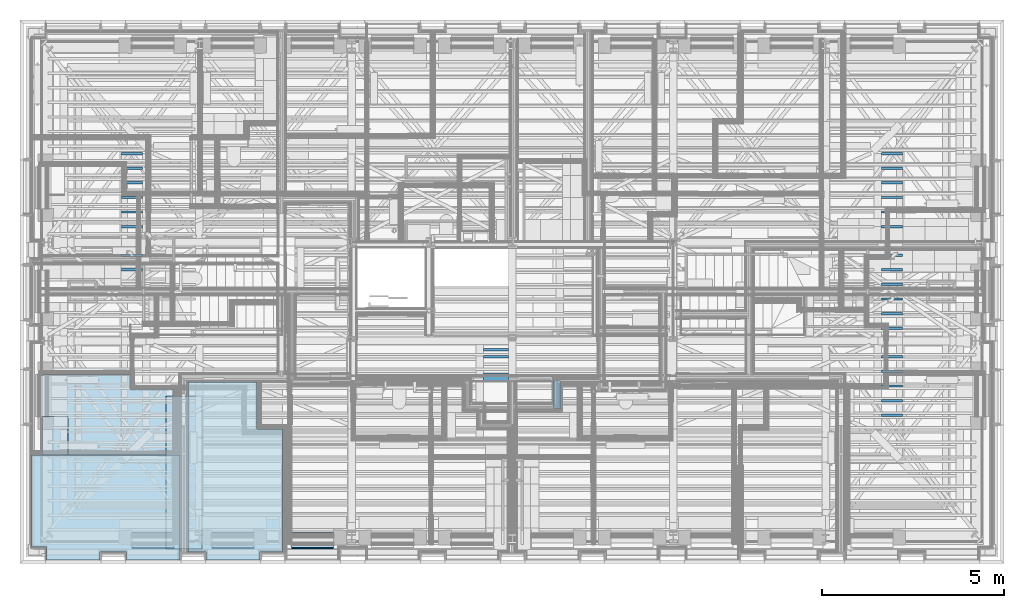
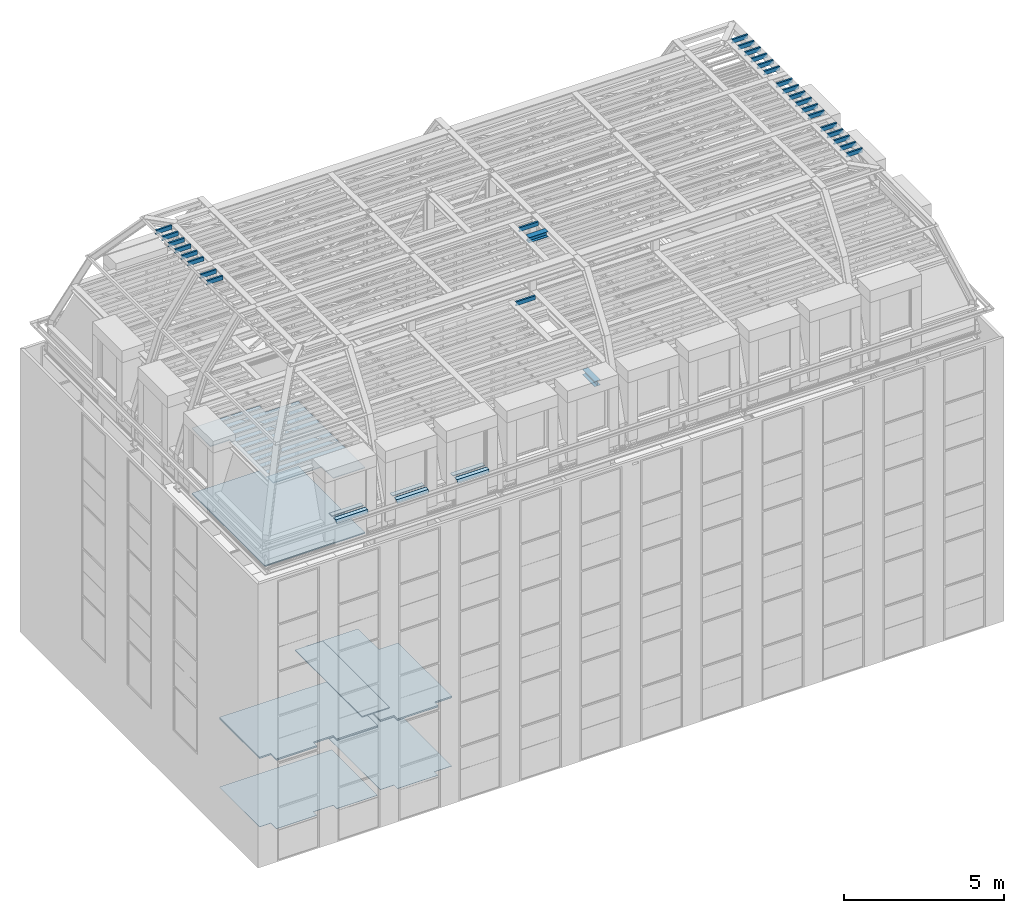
# One storey, part 12 of 183: 29 beams, 21 slabs.
"""IFC2X3 building model written with IfcOpenShell, lengths in metres."""

from ifc_helpers import new_model, entity, si_unit, converted_unit, derived_unit, money_unit, direction, frame, origin_with_axes, place, context, subcontext, project, spatial, polyline, outline, extrude, faceted_brep, material, type_object, element, save


model = new_model("IFC2X3")

# Units and contexts
model_context = context("Model", 3, precision=1e-05, world=origin_with_axes(), true_north=direction((0.0, 1.0)))
body_context = subcontext(model_context, "Body", "Model", "MODEL_VIEW", scale=1.0)
ifc_project = project(units=[si_unit("LENGTHUNIT", "METRE"), si_unit("AREAUNIT", "SQUARE_METRE"), si_unit("VOLUMEUNIT", "CUBIC_METRE"), si_unit("ABSORBEDDOSEUNIT", "GRAY"), si_unit("AMOUNTOFSUBSTANCEUNIT", "MOLE"), si_unit("DOSEEQUIVALENTUNIT", "SIEVERT"), si_unit("ELECTRICCAPACITANCEUNIT", "FARAD"), si_unit("ELECTRICCHARGEUNIT", "COULOMB"), si_unit("ELECTRICCONDUCTANCEUNIT", "SIEMENS"), si_unit("ELECTRICCURRENTUNIT", "AMPERE"), si_unit("ELECTRICRESISTANCEUNIT", "OHM"), si_unit("ELECTRICVOLTAGEUNIT", "VOLT"), si_unit("ENERGYUNIT", "JOULE"), si_unit("FORCEUNIT", "NEWTON"), si_unit("FREQUENCYUNIT", "HERTZ"), si_unit("ILLUMINANCEUNIT", "LUX"), si_unit("INDUCTANCEUNIT", "HENRY"), si_unit("LUMINOUSFLUXUNIT", "LUMEN"), si_unit("LUMINOUSINTENSITYUNIT", "CANDELA"), si_unit("MAGNETICFLUXDENSITYUNIT", "TESLA"), si_unit("MAGNETICFLUXUNIT", "WEBER"), si_unit("MASSUNIT", "GRAM"), converted_unit("PLANEANGLEUNIT", "degree", entity("IfcReal", 0.0174532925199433), si_unit("PLANEANGLEUNIT", "RADIAN"), dimensions=[0, 0, 0, 0, 0, 0, 0]), si_unit("POWERUNIT", "WATT"), si_unit("PRESSUREUNIT", "PASCAL"), si_unit("RADIOACTIVITYUNIT", "BECQUEREL"), si_unit("SOLIDANGLEUNIT", "STERADIAN"), si_unit("THERMODYNAMICTEMPERATUREUNIT", "KELVIN"), si_unit("TIMEUNIT", "SECOND"), derived_unit("ACCELERATIONUNIT", [(si_unit("LENGTHUNIT", "METRE"), 1), (si_unit("TIMEUNIT", "SECOND"), -2)]), derived_unit("ANGULARVELOCITYUNIT", [(converted_unit("PLANEANGLEUNIT", "degree", entity("IfcReal", 0.0174532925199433), si_unit("PLANEANGLEUNIT", "RADIAN"), dimensions=[0, 0, 0, 0, 0, 0, 0]), 1), (si_unit("TIMEUNIT", "SECOND"), -1)]), derived_unit("CURVATUREUNIT", [(converted_unit("PLANEANGLEUNIT", "degree", entity("IfcReal", 0.0174532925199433), si_unit("PLANEANGLEUNIT", "RADIAN"), dimensions=[0, 0, 0, 0, 0, 0, 0]), 1), (si_unit("LENGTHUNIT", "METRE"), -1)]), derived_unit("DYNAMICVISCOSITYUNIT", [(si_unit("PRESSUREUNIT", "PASCAL"), 1), (si_unit("TIMEUNIT", "SECOND"), 1)]), derived_unit("HEATFLUXDENSITYUNIT", [(si_unit("POWERUNIT", "WATT"), 1), (si_unit("LENGTHUNIT", "METRE"), -2)]), derived_unit("HEATINGVALUEUNIT", [(si_unit("ENERGYUNIT", "JOULE"), 1), (si_unit("MASSUNIT", "GRAM"), -1)]), derived_unit("INTEGERCOUNTRATEUNIT", [(si_unit("TIMEUNIT", "SECOND"), -1)]), derived_unit("IONCONCENTRATIONUNIT", [(si_unit("MASSUNIT", "GRAM"), 1), (si_unit("VOLUMEUNIT", "CUBIC_METRE"), -1)]), derived_unit("ISOTHERMALMOISTURECAPACITYUNIT", [(si_unit("VOLUMEUNIT", "CUBIC_METRE"), 1), (si_unit("MASSUNIT", "GRAM"), -1)]), derived_unit("KINEMATICVISCOSITYUNIT", [(si_unit("AREAUNIT", "SQUARE_METRE"), 1), (si_unit("TIMEUNIT", "SECOND"), -1)]), derived_unit("LINEARFORCEUNIT", [(si_unit("FORCEUNIT", "NEWTON"), 1), (si_unit("LENGTHUNIT", "METRE"), -1)]), derived_unit("LINEARMOMENTUNIT", [(si_unit("FORCEUNIT", "NEWTON"), 1), (si_unit("LENGTHUNIT", "METRE"), -1)]), derived_unit("LINEARSTIFFNESSUNIT", [(si_unit("FORCEUNIT", "NEWTON"), 1), (si_unit("LENGTHUNIT", "METRE"), -1)]), derived_unit("LINEARVELOCITYUNIT", [(si_unit("LENGTHUNIT", "METRE"), 1), (si_unit("TIMEUNIT", "SECOND"), -1)]), derived_unit("LUMINOUSINTENSITYDISTRIBUTIONUNIT", [(si_unit("LUMINOUSINTENSITYUNIT", "CANDELA"), 1), (si_unit("LUMINOUSFLUXUNIT", "LUMEN"), -1)]), derived_unit("MASSDENSITYUNIT", [(si_unit("MASSUNIT", "GRAM"), 1), (si_unit("VOLUMEUNIT", "CUBIC_METRE"), -1)]), derived_unit("MASSFLOWRATEUNIT", [(si_unit("MASSUNIT", "GRAM"), 1), (si_unit("TIMEUNIT", "SECOND"), -1)]), derived_unit("MASSPERLENGTHUNIT", [(si_unit("MASSUNIT", "GRAM"), 1), (si_unit("LENGTHUNIT", "METRE"), -1)]), derived_unit("MODULUSOFELASTICITYUNIT", [(si_unit("FORCEUNIT", "NEWTON"), 1), (si_unit("AREAUNIT", "SQUARE_METRE"), -1)]), derived_unit("MODULUSOFLINEARSUBGRADEREACTIONUNIT", [(si_unit("FORCEUNIT", "NEWTON"), 1), (si_unit("LENGTHUNIT", "METRE"), -2)]), derived_unit("MODULUSOFROTATIONALSUBGRADEREACTIONUNIT", [(si_unit("FORCEUNIT", "NEWTON"), 1), (si_unit("LENGTHUNIT", "METRE"), 1)]), derived_unit("MODULUSOFSUBGRADEREACTIONUNIT", [(si_unit("FORCEUNIT", "NEWTON"), 1), (si_unit("VOLUMEUNIT", "CUBIC_METRE"), -1)]), derived_unit("MOISTUREDIFFUSIVITYUNIT", [(si_unit("VOLUMEUNIT", "CUBIC_METRE"), 1), (si_unit("TIMEUNIT", "SECOND"), -1)]), derived_unit("MOLECULARWEIGHTUNIT", [(si_unit("MASSUNIT", "GRAM"), 1), (si_unit("AMOUNTOFSUBSTANCEUNIT", "MOLE"), -1)]), derived_unit("PLANARFORCEUNIT", [(si_unit("FORCEUNIT", "NEWTON"), 1), (si_unit("LENGTHUNIT", "METRE"), -2)]), derived_unit("ROTATIONALFREQUENCYUNIT", [(si_unit("TIMEUNIT", "SECOND"), -1)]), derived_unit("ROTATIONALMASSUNIT", [(si_unit("MASSUNIT", "GRAM"), 1), (si_unit("LENGTHUNIT", "METRE"), 2)]), derived_unit("ROTATIONALSTIFFNESSUNIT", [(si_unit("FORCEUNIT", "NEWTON"), 1), (si_unit("LENGTHUNIT", "METRE"), 1), (converted_unit("PLANEANGLEUNIT", "degree", entity("IfcReal", 0.0174532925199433), si_unit("PLANEANGLEUNIT", "RADIAN"), dimensions=[0, 0, 0, 0, 0, 0, 0]), -1)]), derived_unit("SECTIONAREAINTEGRALUNIT", [(si_unit("LENGTHUNIT", "METRE"), 5)]), derived_unit("SECTIONMODULUSUNIT", [(si_unit("LENGTHUNIT", "METRE"), 3)]), derived_unit("SHEARMODULUSUNIT", [(si_unit("FORCEUNIT", "NEWTON"), 1), (si_unit("AREAUNIT", "SQUARE_METRE"), -1)]), derived_unit("SOUNDPOWERUNIT", [(si_unit("ENERGYUNIT", "JOULE"), 1), (si_unit("TIMEUNIT", "SECOND"), -1)]), derived_unit("SPECIFICHEATCAPACITYUNIT", [(si_unit("FORCEUNIT", "NEWTON"), 1), (si_unit("MASSUNIT", "GRAM"), -1), (si_unit("THERMODYNAMICTEMPERATUREUNIT", "KELVIN"), -1)]), derived_unit("TEMPERATUREGRADIENTUNIT", [(si_unit("THERMODYNAMICTEMPERATUREUNIT", "KELVIN"), 1), (si_unit("LENGTHUNIT", "METRE"), -1)]), derived_unit("THERMALADMITTANCEUNIT", [(si_unit("POWERUNIT", "WATT"), 1), (si_unit("AREAUNIT", "SQUARE_METRE"), -1), (si_unit("THERMODYNAMICTEMPERATUREUNIT", "KELVIN"), -1)]), derived_unit("THERMALCONDUCTANCEUNIT", [(si_unit("POWERUNIT", "WATT"), 1), (si_unit("LENGTHUNIT", "METRE"), -1), (si_unit("THERMODYNAMICTEMPERATUREUNIT", "KELVIN"), -1)]), derived_unit("THERMALEXPANSIONCOEFFICIENTUNIT", [(si_unit("THERMODYNAMICTEMPERATUREUNIT", "KELVIN"), -1)]), derived_unit("THERMALRESISTANCEUNIT", [(si_unit("AREAUNIT", "SQUARE_METRE"), 1), (si_unit("POWERUNIT", "WATT"), -1)]), derived_unit("THERMALTRANSMITTANCEUNIT", [(si_unit("POWERUNIT", "WATT"), 1), (si_unit("AREAUNIT", "SQUARE_METRE"), -1), (si_unit("THERMODYNAMICTEMPERATUREUNIT", "KELVIN"), -1)]), derived_unit("TORQUEUNIT", [(si_unit("FORCEUNIT", "NEWTON"), 1), (si_unit("LENGTHUNIT", "METRE"), 1)]), derived_unit("VAPORPERMEABILITYUNIT", [(si_unit("MASSUNIT", "GRAM"), 1), (si_unit("TIMEUNIT", "SECOND"), -1)]), derived_unit("VOLUMETRICFLOWRATEUNIT", [(si_unit("VOLUMEUNIT", "CUBIC_METRE"), 1), (si_unit("TIMEUNIT", "SECOND"), -1)]), derived_unit("WARPINGCONSTANTUNIT", [(si_unit("LENGTHUNIT", "METRE"), 6)]), derived_unit("WARPINGMOMENTUNIT", [(si_unit("FORCEUNIT", "NEWTON"), 1), (si_unit("LENGTHUNIT", "METRE"), 2)]), money_unit("GBP")], contexts=[model_context])

# Site, building, storey
site_placement = place(None, origin_with_axes())
site = spatial("IfcSite", under=ifc_project, at=site_placement, Name="Site", CompositionType="ELEMENT")
building_placement = place(site_placement, origin_with_axes())
building = spatial("IfcBuilding", under=site, at=building_placement, Name="Building01", CompositionType="ELEMENT")
storey_placement = place(building_placement, frame((0.0, 0.0, 5.15), z_axis=(0.0, 0.0, 1.0), x_axis=(1.0, 0.0, 0.0)))
storey = spatial("IfcBuildingStorey", under=building, at=storey_placement, Name="1F", CompositionType="ELEMENT", Elevation=5.15)

# Beams
ifc_material_1 = material(Name="A_BSUK_Beams_Steel")
beam_type_1 = type_object("IfcBeamType", Name="A-Beams-Steel", PredefinedType="BEAM")
beam_1_placement = place(storey_placement, frame((14.6282, 5.0182, 9.5268), z_axis=(0.0, -1.0, 0.0), x_axis=(1.0, 0.0, 0.0)))
element("IfcBeam", 1, at=beam_1_placement, inside=storey, type_object=beam_type_1, material=ifc_material_1, Name="4F", ObjectType="A-Beams-Steel", context=body_context, shape_type="SweptSolid", body=[
    extrude(outline(polyline([(0.2036, 0.0), (0.2036, 0.011), (0.1054, 0.011), (0.1054, 0.1922), (0.2036, 0.1922), (0.2036, 0.2032), (0.0, 0.2032), (0.0, 0.1922), (0.0982, 0.1922), (0.0982, 0.011), (0.0, 0.011), (0.0, 0.0), (0.2036, 0.0)])), origin_with_axes(), (0.0, 0.0, 1.0), 0.7764),
])
beam_2_placement = place(storey_placement, frame((12.7018, 5.0182, 15.2268), z_axis=(1.0, 0.0, 0.0), x_axis=(0.0, 1.0, 0.0)))
element("IfcBeam", 2, at=beam_2_placement, inside=storey, type_object=beam_type_1, material=ifc_material_1, Name="RP", ObjectType="A-Beams-Steel", context=body_context, shape_type="SweptSolid", body=[
    extrude(outline(polyline([(0.2036, 0.0), (0.2036, 0.011), (0.1054, 0.011), (0.1054, 0.1922), (0.2036, 0.1922), (0.2036, 0.2032), (0.0, 0.2032), (0.0, 0.1922), (0.0982, 0.1922), (0.0982, 0.011), (0.0, 0.011), (0.0, 0.0), (0.2036, 0.0)])), origin_with_axes(), (0.0, 0.0, 1.0), 0.6964),
])
beam_type_2 = type_object("IfcBeamType", Name="SHE_A-Beams-Steel-Purlin_150m15", PredefinedType="BEAM")
beam_3_placement = place(storey_placement, frame((12.7018, 5.8298, 12.328), z_axis=(1.0, 0.0, 0.0), x_axis=(0.0, 0.0, 1.0)))
element("IfcBeam", 3, at=beam_3_placement, inside=storey, type_object=beam_type_2, material=ifc_material_1, Name="5F", ObjectType="SHE_A-Beams-Steel-Purlin_150m15", context=body_context, shape_type="SweptSolid", body=[
    extrude(outline(polyline([(0.152, 0.0), (0.152, -0.064), (0.1365, -0.064), (0.1365, -0.0625), (0.1505, -0.0625), (0.1505, -0.0015), (0.0015, -0.0015), (0.0015, -0.0625), (0.0155, -0.0625), (0.0155, -0.064), (0.0, -0.064), (0.0, 0.0), (0.152, 0.0)])), origin_with_axes(), (0.0, 0.0, 1.0), 0.695),
])
beam_4_placement = place(storey_placement, frame((12.7018, 5.6328, 15.278), z_axis=(1.0, 0.0, 0.0), x_axis=(0.0, 1.0, 0.0)))
element("IfcBeam", 4, at=beam_4_placement, inside=storey, type_object=beam_type_2, material=ifc_material_1, Name="RP", ObjectType="SHE_A-Beams-Steel-Purlin_150m15", context=body_context, shape_type="SweptSolid", body=[
    extrude(outline(polyline([(0.064, 0.0), (0.064, 0.0155), (0.0625, 0.0155), (0.0625, 0.0015), (0.0015, 0.0015), (0.0015, 0.1505), (0.0625, 0.1505), (0.0625, 0.1365), (0.064, 0.1365), (0.064, 0.152), (0.0, 0.152), (0.0, 0.0), (0.064, 0.0)])), origin_with_axes(), (0.0, 0.0, 1.0), 0.6964),
])
for number, where, z_axis, x_axis, name in (
    (5, (23.619002, 4.032648, 15.278), (1.0, 0.0, 0.0), (0.0, 1.0, 0.0), "RP"),
    (6, (23.619002, 4.4328, 15.278), (1.0, 0.0, 0.0), (0.0, 1.0, 0.0), "RP"),
    (7, (23.619002, 4.8328, 15.278), (1.0, 0.0, 0.0), (0.0, 1.0, 0.0), "RP"),
    (8, (23.619002, 5.2328, 15.278), (1.0, 0.0, 0.0), (0.0, 1.0, 0.0), "RP"),
    (9, (23.619002, 6.818, 15.278), (1.0, 0.0, 0.0), (0.0, 1.0, 0.0), "RP"),
    (10, (23.619002, 6.418, 15.278), (1.0, 0.0, 0.0), (0.0, 1.0, 0.0), "RP"),
    (11, (23.619002, 5.6328, 15.278), (1.0, 0.0, 0.0), (0.0, 1.0, 0.0), "RP"),
    (12, (23.619002, 7.218152, 15.278), (1.0, 0.0, 0.0), (0.0, 1.0, 0.0), "RP"),
    (13, (23.619002, 7.618152, 15.278), (1.0, 0.0, 0.0), (0.0, 1.0, 0.0), "RP"),
    (14, (23.619002, 8.018, 15.278), (1.0, 0.0, 0.0), (0.0, 1.0, 0.0), "RP"),
    (15, (23.619002, 8.418, 15.278), (1.0, 0.0, 0.0), (0.0, 1.0, 0.0), "RP"),
    (16, (23.619002, 9.2032, 15.278), (1.0, 0.0, 0.0), (0.0, 1.0, 0.0), "RP"),
    (17, (23.619002, 9.6032, 15.278), (1.0, 0.0, 0.0), (0.0, 1.0, 0.0), "RP"),
    (18, (23.619002, 10.003352, 15.278), (1.0, 0.0, 0.0), (0.0, 1.0, 0.0), "RP"),
    (19, (23.619002, 10.403352, 15.278), (1.0, 0.0, 0.0), (0.0, 1.0, 0.0), "RP"),
    (20, (23.619002, 10.803352, 15.278), (1.0, 0.0, 0.0), (0.0, 1.0, 0.0), "RP"),
    (21, (23.619002, 11.203352, 15.278), (1.0, 0.0, 0.0), (0.0, 1.0, 0.0), "RP"),
    (22, (2.781597, 10.803352, 15.278), (1.0, 0.0, 0.0), (0.0, 1.0, 0.0), "RP"),
    (23, (2.781597, 11.203352, 15.278), (1.0, 0.0, 0.0), (0.0, 1.0, 0.0), "RP"),
    (24, (2.781597, 10.403352, 15.278), (1.0, 0.0, 0.0), (0.0, 1.0, 0.0), "RP"),
    (25, (2.781597, 10.003352, 15.278), (1.0, 0.0, 0.0), (0.0, 1.0, 0.0), "RP"),
    (26, (2.781597, 9.6032, 15.278), (1.0, 0.0, 0.0), (0.0, 1.0, 0.0), "RP"),
    (27, (2.781597, 9.2032, 15.278), (1.0, 0.0, 0.0), (0.0, 1.0, 0.0), "RP"),
    (28, (2.781597, 8.418, 15.278), (1.0, 0.0, 0.0), (0.0, 1.0, 0.0), "RP"),
    (29, (2.781597, 8.018, 15.278), (1.0, 0.0, 0.0), (0.0, 1.0, 0.0), "RP"),
):
    element("IfcBeam", number, at=place(storey_placement, frame(where, z_axis=z_axis, x_axis=x_axis)), inside=storey, type_object=beam_type_2, material=ifc_material_1, Name=name, ObjectType="SHE_A-Beams-Steel-Purlin_150m15", context=body_context, shape_type="SweptSolid", body=[
        extrude(outline(polyline([(0.064, 0.0), (0.064, 0.0155), (0.0625, 0.0155), (0.0625, 0.0015), (0.0015, 0.0015), (0.0015, 0.1505), (0.0625, 0.1505), (0.0625, 0.1365), (0.064, 0.1365), (0.064, 0.152), (0.0, 0.152), (0.0, 0.0), (0.064, 0.0)])), origin_with_axes(), (0.0, 0.0, 1.0), 0.579603),
    ])

# Slabs
ifc_material_2 = material(Name="A_BSUK_Carpet-Pile")
slab_type_1 = type_object("IfcSlabType", Name="A-FloorsSlabs A_BSUK_Slabs", PredefinedType="FLOOR")
placement = place(storey_placement, frame((0.0, 0.0, -5.15), z_axis=(0.0, 0.0, 1.0), x_axis=(1.0, 0.0, 0.0)))
element("IfcSlab", 30, at=placement, inside=storey, type_object=slab_type_1, material=ifc_material_2, Name="A-FloorsSlabs A_BSUK_Slabs", ObjectType="CompoundSlabLeaf", context=body_context, shape_type="Brep", body=[
    faceted_brep([(4.61, 4.98, 5.153), (4.61, 4.98, 5.165), (6.5, 4.98, 5.165), (6.5, 4.98, 5.153), (4.61, 0.318, 5.153), (4.61, 0.318, 5.165), (5.105, 0.318, 5.153), (5.105, 0.318, 5.165), (5.105, 0.1, 5.153), (5.105, 0.1, 5.165), (6.575, 0.1, 5.153), (6.575, 0.1, 5.165), (6.575, 0.318, 5.153), (6.575, 0.318, 5.165), (7.2, 0.318, 5.153), (7.2, 0.318, 5.165), (7.2, 3.685, 5.153), (7.2, 3.685, 5.165), (6.5, 3.685, 5.153), (6.5, 3.685, 5.165)], [[[0, 1, 2, 3]], [[4, 5, 1, 0]], [[6, 7, 5, 4]], [[8, 9, 7, 6]], [[10, 11, 9, 8]], [[12, 13, 11, 10]], [[14, 15, 13, 12]], [[16, 17, 15, 14]], [[18, 19, 17, 16]], [[3, 2, 19, 18]], [[1, 5, 7, 9, 11, 13, 15, 17, 19, 2]], [[3, 18, 16, 14, 12, 10, 8, 6, 4, 0]]]),
])
element("IfcSlab", 31, at=placement, inside=storey, type_object=slab_type_1, material=ifc_material_2, Name="A-FloorsSlabs A_BSUK_Slabs", ObjectType="CompoundSlabLeaf", context=body_context, shape_type="Brep", body=[
    faceted_brep([(0.318, 0.448, 5.153), (0.318, 0.448, 5.165), (0.318, 2.970286, 5.165), (0.318, 2.970286, 5.153), (0.725, 0.448, 5.153), (0.725, 0.448, 5.165), (0.725, 0.1, 5.153), (0.725, 0.1, 5.165), (2.195, 0.1, 5.153), (2.195, 0.1, 5.165), (2.195, 0.318, 5.153), (2.195, 0.318, 5.165), (2.915, 0.318, 5.153), (2.915, 0.318, 5.165), (2.915, 0.1, 5.153), (2.915, 0.1, 5.165), (4.385, 0.1, 5.153), (4.385, 0.1, 5.165), (4.385, 2.970286, 5.153), (4.385, 2.970286, 5.165)], [[[0, 1, 2, 3]], [[4, 5, 1, 0]], [[6, 7, 5, 4]], [[8, 9, 7, 6]], [[10, 11, 9, 8]], [[12, 13, 11, 10]], [[14, 15, 13, 12]], [[16, 17, 15, 14]], [[18, 19, 17, 16]], [[3, 2, 19, 18]], [[1, 5, 7, 9, 11, 13, 15, 17, 19, 2]], [[3, 18, 16, 14, 12, 10, 8, 6, 4, 0]]]),
])
ifc_material_3 = material(Name="A_BSUK_CeilingSoffitFinishes_Suspended")
element("IfcSlab", 32, at=placement, inside=storey, type_object=slab_type_1, material=ifc_material_3, Name="A-FloorsSlabs A_BSUK_Slabs", ObjectType="CompoundSlabLeaf", context=body_context, shape_type="Brep", body=[
    faceted_brep([(4.61, 4.98, 7.765), (4.61, 4.98, 7.78), (6.5, 4.98, 7.78), (6.5, 4.98, 7.765), (4.61, 0.318, 7.765), (4.61, 0.318, 7.78), (5.105, 0.318, 7.765), (5.105, 0.318, 7.78), (5.105, 0.1, 7.765), (5.105, 0.1, 7.78), (6.575, 0.1, 7.765), (6.575, 0.1, 7.78), (6.575, 0.318, 7.765), (6.575, 0.318, 7.78), (7.2, 0.318, 7.765), (7.2, 0.318, 7.78), (7.2, 3.685, 7.765), (7.2, 3.685, 7.78), (6.5, 3.685, 7.765), (6.5, 3.685, 7.78)], [[[0, 1, 2, 3]], [[4, 5, 1, 0]], [[6, 7, 5, 4]], [[8, 9, 7, 6]], [[10, 11, 9, 8]], [[12, 13, 11, 10]], [[14, 15, 13, 12]], [[16, 17, 15, 14]], [[18, 19, 17, 16]], [[3, 2, 19, 18]], [[1, 5, 7, 9, 11, 13, 15, 17, 19, 2]], [[3, 18, 16, 14, 12, 10, 8, 6, 4, 0]]]),
])
element("IfcSlab", 33, at=placement, inside=storey, type_object=slab_type_1, material=ifc_material_3, Name="A-FloorsSlabs A_BSUK_Slabs", ObjectType="CompoundSlabLeaf", context=body_context, shape_type="Brep", body=[
    faceted_brep([(0.318, 0.448, 7.765), (0.318, 0.448, 7.78), (0.318, 2.970286, 7.78), (0.318, 2.970286, 7.765), (0.725, 0.448, 7.765), (0.725, 0.448, 7.78), (0.725, 0.1, 7.765), (0.725, 0.1, 7.78), (2.195, 0.1, 7.765), (2.195, 0.1, 7.78), (2.195, 0.318, 7.765), (2.195, 0.318, 7.78), (2.915, 0.318, 7.765), (2.915, 0.318, 7.78), (2.915, 0.1, 7.765), (2.915, 0.1, 7.78), (4.385, 0.1, 7.765), (4.385, 0.1, 7.78), (4.385, 2.970286, 7.765), (4.385, 2.970286, 7.78)], [[[0, 1, 2, 3]], [[4, 5, 1, 0]], [[6, 7, 5, 4]], [[8, 9, 7, 6]], [[10, 11, 9, 8]], [[12, 13, 11, 10]], [[14, 15, 13, 12]], [[16, 17, 15, 14]], [[18, 19, 17, 16]], [[3, 2, 19, 18]], [[1, 5, 7, 9, 11, 13, 15, 17, 19, 2]], [[3, 18, 16, 14, 12, 10, 8, 6, 4, 0]]]),
])
element("IfcSlab", 34, at=placement, inside=storey, type_object=slab_type_1, material=ifc_material_3, Name="A-FloorsSlabs A_BSUK_Slabs", ObjectType="CompoundSlabLeaf", context=body_context, shape_type="Brep", body=[
    faceted_brep([(3.997, 0.4, 8.115), (3.997, 0.4, 8.13), (3.997, 4.593, 8.13), (3.997, 4.593, 8.115), (4.997, 0.4, 8.115), (4.997, 0.4, 8.13), (4.997, 4.593, 8.115), (4.997, 4.593, 8.13)], [[[0, 1, 2, 3]], [[4, 5, 1, 0]], [[6, 7, 5, 4]], [[3, 2, 7, 6]], [[1, 5, 7, 2]], [[3, 6, 4, 0]]]),
])
element("IfcSlab", 35, at=placement, inside=storey, type_object=slab_type_1, material=ifc_material_3, Name="A-FloorsSlabs A_BSUK_Slabs", ObjectType="CompoundSlabLeaf", context=body_context, shape_type="Brep", body=[
    faceted_brep([(3.997, 0.4, 8.1), (3.997, 0.4, 8.115), (3.997, 4.593, 8.115), (3.997, 4.593, 8.1), (4.997, 0.4, 8.1), (4.997, 0.4, 8.115), (4.997, 4.593, 8.1), (4.997, 4.593, 8.115)], [[[0, 1, 2, 3]], [[4, 5, 1, 0]], [[6, 7, 5, 4]], [[3, 2, 7, 6]], [[1, 5, 7, 2]], [[3, 6, 4, 0]]]),
])
ifc_material_4 = material(Name="A_BSUK_Timber_Miscellaneous")
slab_7_placement = place(storey_placement, frame((4.220024, 0.575339, 10.78), z_axis=(0.0, 0.0, 1.0), x_axis=(-1.0, 0.0, 0.0)))
element("IfcSlab", 36, at=slab_7_placement, inside=storey, type_object=slab_type_1, material=ifc_material_4, Name="A-FloorsSlabs A_BSUK_Slabs", ObjectType="A-FloorsSlabs A_BSUK_Slabs", context=body_context, shape_type="Brep", body=[
    faceted_brep([(0.0, 0.0, 0.0), (1.15, 0.0, 0.0), (1.15, 0.0, 0.022498), (0.0, 0.0, 0.022498), (1.15, 0.142391, 0.017505), (0.0, 0.142391, 0.017505), (1.15, 0.148079, 0.0), (0.0, 0.148079, 0.0)], [[[0, 1, 2, 3]], [[3, 2, 4, 5]], [[5, 4, 6, 7]], [[7, 6, 1, 0]], [[1, 6, 4, 2]], [[3, 5, 7, 0]]]),
])
ifc_material_5 = material(Name="A_BSUK_Steel_Miscellaneous")
slab_8_placement = place(storey_placement, frame((4.220024, 0.575339, 10.802498), z_axis=(0.0, 0.0, 1.0), x_axis=(-1.0, 0.0, 0.0)))
element("IfcSlab", 37, at=slab_8_placement, inside=storey, type_object=slab_type_1, material=ifc_material_5, Name="A-FloorsSlabs A_BSUK_Slabs", ObjectType="A-FloorsSlabs A_BSUK_Slabs", context=body_context, shape_type="Brep", body=[
    faceted_brep([(0.0, 0.0, 0.0), (1.15, 0.0, 0.0), (1.15, 0.0, 0.007502), (0.0, 0.0, 0.007502), (1.15, 0.001, 0.007502), (0.0, 0.001, 0.007502), (1.15, 0.0025, 0.002414), (0.0, 0.0025, 0.002414), (1.15, 0.144228, -0.002556), (0.0, 0.144228, -0.002556), (1.15, 0.183199, -0.122498), (0.0, 0.183199, -0.122498), (1.15, 0.183199, -0.127498), (0.0, 0.183199, -0.127498), (1.15, 0.180699, -0.127498), (0.0, 0.180699, -0.127498), (1.15, 0.180699, -0.122894), (0.0, 0.180699, -0.122894), (1.15, 0.142391, -0.004993), (0.0, 0.142391, -0.004993)], [[[0, 1, 2, 3]], [[3, 2, 4, 5]], [[5, 4, 6, 7]], [[7, 6, 8, 9]], [[9, 8, 10, 11]], [[11, 10, 12, 13]], [[13, 12, 14, 15]], [[15, 14, 16, 17]], [[17, 16, 18, 19]], [[19, 18, 1, 0]], [[1, 18, 16, 14, 12, 10, 8, 6, 4, 2]], [[3, 5, 7, 9, 11, 13, 15, 17, 19, 0]]]),
])
slab_9_placement = place(storey_placement, frame((6.410024, 0.575339, 10.78), z_axis=(0.0, 0.0, 1.0), x_axis=(-1.0, 0.0, 0.0)))
element("IfcSlab", 38, at=slab_9_placement, inside=storey, type_object=slab_type_1, material=ifc_material_4, Name="A-FloorsSlabs A_BSUK_Slabs", ObjectType="A-FloorsSlabs A_BSUK_Slabs", context=body_context, shape_type="Brep", body=[
    faceted_brep([(0.0, 0.0, 0.0), (1.15, 0.0, 0.0), (1.15, 0.0, 0.022498), (0.0, 0.0, 0.022498), (1.15, 0.142391, 0.017505), (0.0, 0.142391, 0.017505), (1.15, 0.148079, 0.0), (0.0, 0.148079, 0.0)], [[[0, 1, 2, 3]], [[3, 2, 4, 5]], [[5, 4, 6, 7]], [[7, 6, 1, 0]], [[1, 6, 4, 2]], [[3, 5, 7, 0]]]),
])
slab_10_placement = place(storey_placement, frame((6.410024, 0.575339, 10.802498), z_axis=(0.0, 0.0, 1.0), x_axis=(-1.0, 0.0, 0.0)))
element("IfcSlab", 39, at=slab_10_placement, inside=storey, type_object=slab_type_1, material=ifc_material_5, Name="A-FloorsSlabs A_BSUK_Slabs", ObjectType="A-FloorsSlabs A_BSUK_Slabs", context=body_context, shape_type="Brep", body=[
    faceted_brep([(0.0, 0.0, 0.0), (1.15, 0.0, 0.0), (1.15, 0.0, 0.007502), (0.0, 0.0, 0.007502), (1.15, 0.001, 0.007502), (0.0, 0.001, 0.007502), (1.15, 0.0025, 0.002414), (0.0, 0.0025, 0.002414), (1.15, 0.144228, -0.002556), (0.0, 0.144228, -0.002556), (1.15, 0.183199, -0.122498), (0.0, 0.183199, -0.122498), (1.15, 0.183199, -0.127498), (0.0, 0.183199, -0.127498), (1.15, 0.180699, -0.127498), (0.0, 0.180699, -0.127498), (1.15, 0.180699, -0.122894), (0.0, 0.180699, -0.122894), (1.15, 0.142391, -0.004993), (0.0, 0.142391, -0.004993)], [[[0, 1, 2, 3]], [[3, 2, 4, 5]], [[5, 4, 6, 7]], [[7, 6, 8, 9]], [[9, 8, 10, 11]], [[11, 10, 12, 13]], [[13, 12, 14, 15]], [[15, 14, 16, 17]], [[17, 16, 18, 19]], [[19, 18, 1, 0]], [[1, 18, 16, 14, 12, 10, 8, 6, 4, 2]], [[3, 5, 7, 9, 11, 13, 15, 17, 19, 0]]]),
])
slab_11_placement = place(storey_placement, frame((8.600024, 0.575339, 10.78), z_axis=(0.0, 0.0, 1.0), x_axis=(-1.0, 0.0, 0.0)))
element("IfcSlab", 40, at=slab_11_placement, inside=storey, type_object=slab_type_1, material=ifc_material_4, Name="A-FloorsSlabs A_BSUK_Slabs", ObjectType="A-FloorsSlabs A_BSUK_Slabs", context=body_context, shape_type="Brep", body=[
    faceted_brep([(0.0, 0.0, 0.0), (1.15, 0.0, 0.0), (1.15, 0.0, 0.022498), (0.0, 0.0, 0.022498), (1.15, 0.142391, 0.017505), (0.0, 0.142391, 0.017505), (1.15, 0.148079, 0.0), (0.0, 0.148079, 0.0)], [[[0, 1, 2, 3]], [[3, 2, 4, 5]], [[5, 4, 6, 7]], [[7, 6, 1, 0]], [[1, 6, 4, 2]], [[3, 5, 7, 0]]]),
])
slab_12_placement = place(storey_placement, frame((8.600024, 0.575339, 10.802498), z_axis=(0.0, 0.0, 1.0), x_axis=(-1.0, 0.0, 0.0)))
element("IfcSlab", 41, at=slab_12_placement, inside=storey, type_object=slab_type_1, material=ifc_material_5, Name="A-FloorsSlabs A_BSUK_Slabs", ObjectType="A-FloorsSlabs A_BSUK_Slabs", context=body_context, shape_type="Brep", body=[
    faceted_brep([(0.0, 0.0, 0.0), (1.15, 0.0, 0.0), (1.15, 0.0, 0.007502), (0.0, 0.0, 0.007502), (1.15, 0.001, 0.007502), (0.0, 0.001, 0.007502), (1.15, 0.0025, 0.002414), (0.0, 0.0025, 0.002414), (1.15, 0.144228, -0.002556), (0.0, 0.144228, -0.002556), (1.15, 0.183199, -0.122498), (0.0, 0.183199, -0.122498), (1.15, 0.183199, -0.127498), (0.0, 0.183199, -0.127498), (1.15, 0.180699, -0.127498), (0.0, 0.180699, -0.127498), (1.15, 0.180699, -0.122894), (0.0, 0.180699, -0.122894), (1.15, 0.142391, -0.004993), (0.0, 0.142391, -0.004993)], [[[0, 1, 2, 3]], [[3, 2, 4, 5]], [[5, 4, 6, 7]], [[7, 6, 8, 9]], [[9, 8, 10, 11]], [[11, 10, 12, 13]], [[13, 12, 14, 15]], [[15, 14, 16, 17]], [[17, 16, 18, 19]], [[19, 18, 1, 0]], [[1, 18, 16, 14, 12, 10, 8, 6, 4, 2]], [[3, 5, 7, 9, 11, 13, 15, 17, 19, 0]]]),
])
element("IfcSlab", 42, at=placement, inside=storey, type_object=slab_type_1, material=ifc_material_3, Name="A-FloorsSlabs A_BSUK_Slabs", ObjectType="CompoundSlabLeaf", context=body_context, shape_type="Brep", body=[
    faceted_brep([(4.219976, 4.779939, 17.423), (4.219976, 4.779939, 17.438), (4.219976, 0.599939, 17.438), (4.219976, 0.599939, 17.423), (3.039976, 4.779939, 17.423), (3.039976, 4.779939, 17.438), (3.039976, 5.174915, 17.423), (3.039976, 5.174915, 17.438), (0.599939, 5.174915, 17.423), (0.599939, 5.174915, 17.438), (0.599939, 4.024964, 17.423), (0.599939, 4.024964, 17.438), (1.312402, 4.024964, 17.423), (1.312402, 4.024964, 17.438), (1.312402, 1.312402, 17.423), (1.312402, 1.312402, 17.438), (3.070024, 1.312402, 17.423), (3.070024, 1.312402, 17.438), (3.070024, 0.599939, 17.423), (3.070024, 0.599939, 17.438)], [[[0, 1, 2, 3]], [[4, 5, 1, 0]], [[6, 7, 5, 4]], [[8, 9, 7, 6]], [[10, 11, 9, 8]], [[12, 13, 11, 10]], [[14, 15, 13, 12]], [[16, 17, 15, 14]], [[18, 19, 17, 16]], [[3, 2, 19, 18]], [[1, 5, 7, 9, 11, 13, 15, 17, 19, 2]], [[3, 18, 16, 14, 12, 10, 8, 6, 4, 0]]]),
])
ifc_material_6 = material(Name="A_BSUK_ExpandedPolystyreneBoards")
element("IfcSlab", 43, at=placement, inside=storey, type_object=slab_type_1, material=ifc_material_6, Name="A-FloorsSlabs A_BSUK_Slabs", ObjectType="CompoundSlabLeaf", context=body_context, shape_type="Brep", body=[
    faceted_brep([(4.219976, 4.779939, 14.92), (4.219976, 4.779939, 14.952), (4.219976, 0.6038, 14.952), (4.219976, 0.6038, 14.92), (3.039976, 4.779939, 14.92), (3.039976, 4.779939, 14.952), (3.039976, 5.174915, 14.92), (3.039976, 5.174915, 14.952), (0.6038, 5.174915, 14.92), (0.6038, 5.174915, 14.952), (0.6038, 4.024964, 14.92), (0.6038, 4.024964, 14.952), (0.6038, 0.6038, 14.92), (0.6038, 0.6038, 14.952), (3.070024, 0.6038, 14.92), (3.070024, 0.6038, 14.952)], [[[0, 1, 2, 3]], [[4, 5, 1, 0]], [[6, 7, 5, 4]], [[8, 9, 7, 6]], [[10, 11, 9, 8]], [[12, 13, 11, 10]], [[14, 15, 13, 12]], [[3, 2, 15, 14]], [[1, 5, 7, 9, 11, 13, 15, 2]], [[3, 14, 12, 10, 8, 6, 4, 0]]]),
])
element("IfcSlab", 44, at=placement, inside=storey, type_object=slab_type_1, material=ifc_material_4, Name="A-FloorsSlabs A_BSUK_Slabs", ObjectType="CompoundSlabLeaf", context=body_context, shape_type="Brep", body=[
    faceted_brep([(4.220024, 0.849939, 15.93), (4.220024, 0.849939, 15.955), (4.220024, 0.675339, 15.955), (4.220024, 0.675339, 15.93), (3.070024, 0.849939, 15.93), (3.070024, 0.849939, 15.955), (3.070025, 0.675339, 15.93), (3.070025, 0.675339, 15.955)], [[[0, 1, 2, 3]], [[4, 5, 1, 0]], [[6, 7, 5, 4]], [[3, 2, 7, 6]], [[1, 5, 7, 2]], [[3, 6, 4, 0]]]),
])
element("IfcSlab", 45, at=placement, inside=storey, type_object=slab_type_1, material=ifc_material_4, Name="A-FloorsSlabs A_BSUK_Slabs", ObjectType="CompoundSlabLeaf", context=body_context, shape_type="Brep", body=[
    faceted_brep([(6.410024, 0.849939, 15.93), (6.410024, 0.849939, 15.955), (6.410024, 0.675339, 15.955), (6.410024, 0.675339, 15.93), (5.260024, 0.849939, 15.93), (5.260024, 0.849939, 15.955), (5.260025, 0.675339, 15.93), (5.260025, 0.675339, 15.955)], [[[0, 1, 2, 3]], [[4, 5, 1, 0]], [[6, 7, 5, 4]], [[3, 2, 7, 6]], [[1, 5, 7, 2]], [[3, 6, 4, 0]]]),
])
element("IfcSlab", 46, at=placement, inside=storey, type_object=slab_type_1, material=ifc_material_4, Name="A-FloorsSlabs A_BSUK_Slabs", ObjectType="CompoundSlabLeaf", context=body_context, shape_type="Brep", body=[
    faceted_brep([(8.600024, 0.849939, 15.93), (8.600024, 0.849939, 15.955), (8.600024, 0.675339, 15.955), (8.600024, 0.675339, 15.93), (7.450024, 0.849939, 15.93), (7.450024, 0.849939, 15.955), (7.450025, 0.675339, 15.93), (7.450025, 0.675339, 15.955)], [[[0, 1, 2, 3]], [[4, 5, 1, 0]], [[6, 7, 5, 4]], [[3, 2, 7, 6]], [[1, 5, 7, 2]], [[3, 6, 4, 0]]]),
])
element("IfcSlab", 47, at=placement, inside=storey, type_object=slab_type_1, material=ifc_material_3, Name="A-FloorsSlabs A_BSUK_Slabs", ObjectType="CompoundSlabLeaf", context=body_context, shape_type="Brep", body=[
    faceted_brep([(4.219976, 4.779939, 17.438), (4.219976, 4.779939, 17.453), (4.219976, 0.599939, 17.453), (4.219976, 0.599939, 17.438), (3.039976, 4.779939, 17.438), (3.039976, 4.779939, 17.453), (3.039976, 5.174915, 17.438), (3.039976, 5.174915, 17.453), (0.599939, 5.174915, 17.438), (0.599939, 5.174915, 17.453), (0.599939, 4.024964, 17.438), (0.599939, 4.024964, 17.453), (1.312402, 4.024964, 17.438), (1.312402, 4.024964, 17.453), (1.312402, 1.312402, 17.438), (1.312402, 1.312402, 17.453), (3.070024, 1.312402, 17.438), (3.070024, 1.312402, 17.453), (3.070024, 0.599939, 17.438), (3.070024, 0.599939, 17.453)], [[[0, 1, 2, 3]], [[4, 5, 1, 0]], [[6, 7, 5, 4]], [[8, 9, 7, 6]], [[10, 11, 9, 8]], [[12, 13, 11, 10]], [[14, 15, 13, 12]], [[16, 17, 15, 14]], [[18, 19, 17, 16]], [[3, 2, 19, 18]], [[1, 5, 7, 9, 11, 13, 15, 17, 19, 2]], [[3, 18, 16, 14, 12, 10, 8, 6, 4, 0]]]),
])
slab_type_2 = type_object("IfcSlabType", Name="A-FloorsSlabs A_BSUK_ExpandedPolystyreneBoards", PredefinedType="FLOOR")
element("IfcSlab", 48, at=placement, inside=storey, type_object=slab_type_2, material=ifc_material_6, Name="A-FloorsSlabs A_BSUK_ExpandedPolystyreneBoards", ObjectType="CompoundSlabLeaf", context=body_context, shape_type="Brep", body=[
    faceted_brep([(4.61, 4.98, 7.78), (4.61, 4.98, 7.83), (6.5, 4.98, 7.83), (6.5, 4.98, 7.78), (4.61, 0.318, 7.78), (4.61, 0.318, 7.83), (5.105, 0.318, 7.78), (5.105, 0.318, 7.83), (5.105, 0.1, 7.78), (5.105, 0.1, 7.83), (6.575, 0.1, 7.78), (6.575, 0.1, 7.83), (6.575, 0.318, 7.78), (6.575, 0.318, 7.83), (7.2, 0.318, 7.78), (7.2, 0.318, 7.83), (7.2, 3.685, 7.78), (7.2, 3.685, 7.83), (6.5, 3.685, 7.78), (6.5, 3.685, 7.83)], [[[0, 1, 2, 3]], [[4, 5, 1, 0]], [[6, 7, 5, 4]], [[8, 9, 7, 6]], [[10, 11, 9, 8]], [[12, 13, 11, 10]], [[14, 15, 13, 12]], [[16, 17, 15, 14]], [[18, 19, 17, 16]], [[3, 2, 19, 18]], [[1, 5, 7, 9, 11, 13, 15, 17, 19, 2]], [[3, 18, 16, 14, 12, 10, 8, 6, 4, 0]]]),
])
element("IfcSlab", 49, at=placement, inside=storey, type_object=slab_type_2, material=ifc_material_6, Name="A-FloorsSlabs A_BSUK_ExpandedPolystyreneBoards", ObjectType="CompoundSlabLeaf", context=body_context, shape_type="Brep", body=[
    faceted_brep([(0.318, 0.448, 7.78), (0.318, 0.448, 7.83), (0.318, 2.970286, 7.83), (0.318, 2.970286, 7.78), (0.725, 0.448, 7.78), (0.725, 0.448, 7.83), (0.725, 0.1, 7.78), (0.725, 0.1, 7.83), (2.195, 0.1, 7.78), (2.195, 0.1, 7.83), (2.195, 0.318, 7.78), (2.195, 0.318, 7.83), (2.915, 0.318, 7.78), (2.915, 0.318, 7.83), (2.915, 0.1, 7.78), (2.915, 0.1, 7.83), (4.385, 0.1, 7.78), (4.385, 0.1, 7.83), (4.385, 2.970286, 7.78), (4.385, 2.970286, 7.83)], [[[0, 1, 2, 3]], [[4, 5, 1, 0]], [[6, 7, 5, 4]], [[8, 9, 7, 6]], [[10, 11, 9, 8]], [[12, 13, 11, 10]], [[14, 15, 13, 12]], [[16, 17, 15, 14]], [[18, 19, 17, 16]], [[3, 2, 19, 18]], [[1, 5, 7, 9, 11, 13, 15, 17, 19, 2]], [[3, 18, 16, 14, 12, 10, 8, 6, 4, 0]]]),
])
slab_type_3 = type_object("IfcSlabType", Name="A-Finishes A_BSUK_Carpet-Pile", PredefinedType="FLOOR")
element("IfcSlab", 50, at=placement, inside=storey, type_object=slab_type_3, material=ifc_material_2, Name="A-Finishes A_BSUK_Carpet-Pile", ObjectType="CompoundSlabLeaf", context=body_context, shape_type="Brep", body=[
    faceted_brep([(4.219976, 4.779939, 14.952), (4.219976, 4.779939, 14.964), (4.219976, 0.6038, 14.964), (4.219976, 0.6038, 14.952), (3.039976, 4.779939, 14.952), (3.039976, 4.779939, 14.964), (3.039976, 5.174915, 14.952), (3.039976, 5.174915, 14.964), (0.6038, 5.174915, 14.952), (0.6038, 5.174915, 14.964), (0.6038, 4.024964, 14.952), (0.6038, 4.024964, 14.964), (0.6038, 0.6038, 14.952), (0.6038, 0.6038, 14.964), (3.070024, 0.6038, 14.952), (3.070024, 0.6038, 14.964)], [[[0, 1, 2, 3]], [[4, 5, 1, 0]], [[6, 7, 5, 4]], [[8, 9, 7, 6]], [[10, 11, 9, 8]], [[12, 13, 11, 10]], [[14, 15, 13, 12]], [[3, 2, 15, 14]], [[1, 5, 7, 9, 11, 13, 15, 2]], [[3, 14, 12, 10, 8, 6, 4, 0]]]),
])

save(model, "model.ifc")
